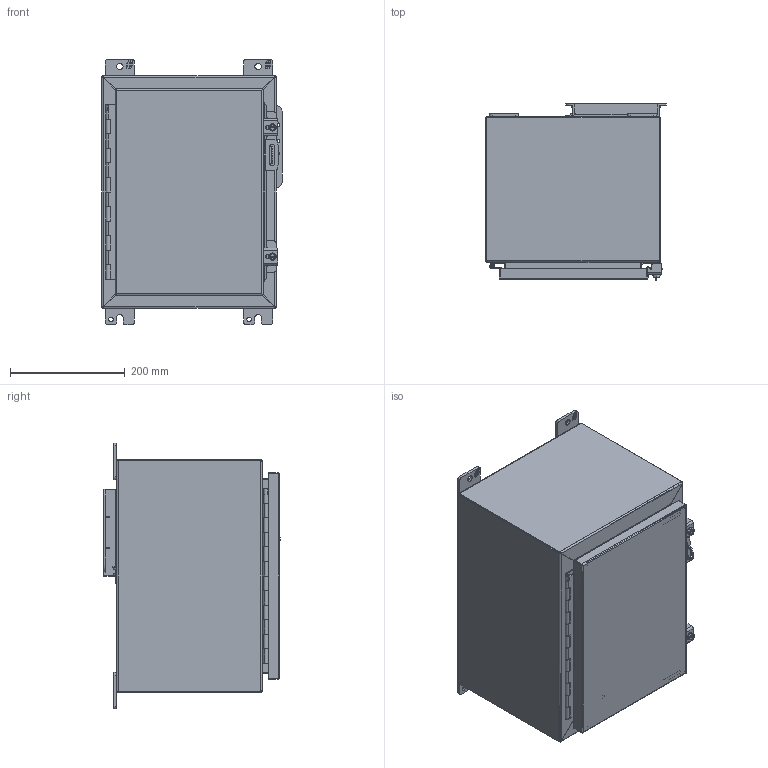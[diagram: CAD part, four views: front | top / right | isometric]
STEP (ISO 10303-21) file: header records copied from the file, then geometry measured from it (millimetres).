
FILE_DESCRIPTION(/* description */ ('Unknown'),/* implementation_level */ '2;1');
FILE_NAME(/* name */ '1418B10LP',/* time_stamp */ '2026-02-20T16:28:20-05:00',/* author */ ('Unknown'),/* organization */ ('Unknown'),/* preprocessor_version */ 'ST-DEVELOPER v18.104',/* originating_system */ 'Solid Edge',/* authorisation */ 'Unknown');
FILE_SCHEMA (('AUTOMOTIVE_DESIGN {1 0 10303 214 3 1 1}'));
Length unit declared in the file: millimetre
Products named in the file (30): 1418B10LP; STD26094; STD21878; COM42780; HNG10620-12B; COM40153-1; HNG10620-12P; COM71780-2; COM40153-2; HNG10620-12C; PNT11078; COM70219_oa_0; COM48439; FET07710; AKT90223; SPR20265; SCC19011; WAF25035; COM42667; BUL10020; QLB30109; PKT66; KIT90256; LAB30005; NTS165305; NTS16535; KIT90518; WAF25059; NTS166105
Assembly tree (40 placements, depth 3):
  1418B10LP
    STD26094  x4
    STD21878
    COM42780  x2
    HNG10620-12B
    COM40153-1
    HNG10620-12P
    COM71780-2
      COM40153-2
      HNG10620-12C
      PNT11078
      COM71780-2
      STD21878
      COM70219_oa_0
    COM48439
    FET07710  x4
    AKT90223  x2
      SPR20265
      SCC19011
      WAF25035
      COM42667
    BUL10020
    QLB30109
    PKT66
    KIT90256
      LAB30005
      NTS165305
      NTS16535
    KIT90518
      WAF25059
      NTS166105
      LAB30005
    PNT11078
Bounding box: 315.37 x 307.98 x 463.55 mm (x, y, z)
Volume: 1506373.6 mm3; surface area: 1595746.1 mm2
Topology: 34 solids, 35 shells, 1151 faces, 2919 edges, 1866 vertices
Faces by surface type: plane 772, cylinder 282, bspline 49, cone 26, torus 20, sphere 2
Full cylindrical faces by diameter (mm): 3.175 x1, 4.763 x1, 4.976 x1, 5.41 x2, 6.198 x2, 6.35 x3, 6.731 x2, 7.137 x2, 7.805 x1, 7.938 x4, 8.382 x4, 9.525 x4, 9.906 x2, 11.113 x4, 11.303 x1, 12.7 x2, 16.51 x4, 25.4 x1, 88.9 x1
Entity records: 28541 total; most frequent: CARTESIAN_POINT 8035, ORIENTED_EDGE 4088, DIRECTION 3847, EDGE_CURVE 2044, LINE 1397, VECTOR 1397, VERTEX_POINT 1309, AXIS2_PLACEMENT_3D 1225
